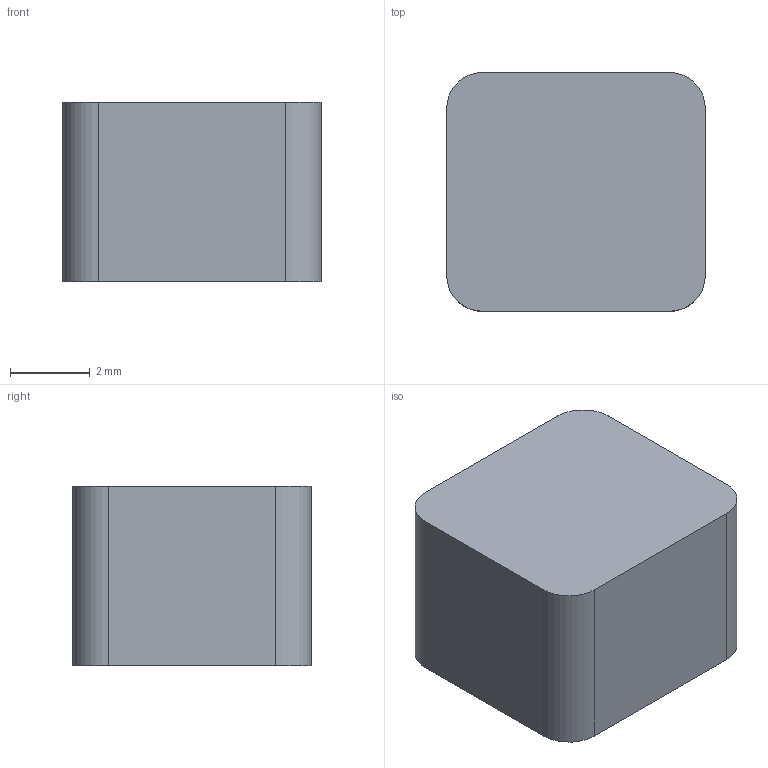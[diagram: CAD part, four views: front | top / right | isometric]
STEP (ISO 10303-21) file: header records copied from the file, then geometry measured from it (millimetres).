
FILE_DESCRIPTION(('Open CASCADE Model'),'2;1');
FILE_NAME('CUT_P01_MIC_WIRE_WINDOW_NO_THIN_FINS','2026-09-15T14:22:10',( 'Author'),('Open CASCADE'),'Open CASCADE STEP processor 7.9', 'build123d','Unknown');
FILE_SCHEMA(('AUTOMOTIVE_DESIGN { 1 0 10303 214 1 1 1 1 }'));
Length unit declared in the file: millimetre
Products named in the file (1): CUT_P01_MIC_WIRE_WINDOW_NO_THIN_FINS
Bounding box: 6.5 x 6 x 4.5 mm (x, y, z)
Volume: 172.4 mm3; surface area: 182.2 mm2
Topology: 1 solids, 1 shells, 10 faces, 24 edges, 16 vertices
Faces by surface type: plane 6, cylinder 4
Entity records: 642 total; most frequent: CARTESIAN_POINT 147, DIRECTION 94, LINE 56, VECTOR 56, ORIENTED_EDGE 48, PCURVE 48, DEFINITIONAL_REPRESENTATION 48, EDGE_CURVE 24
